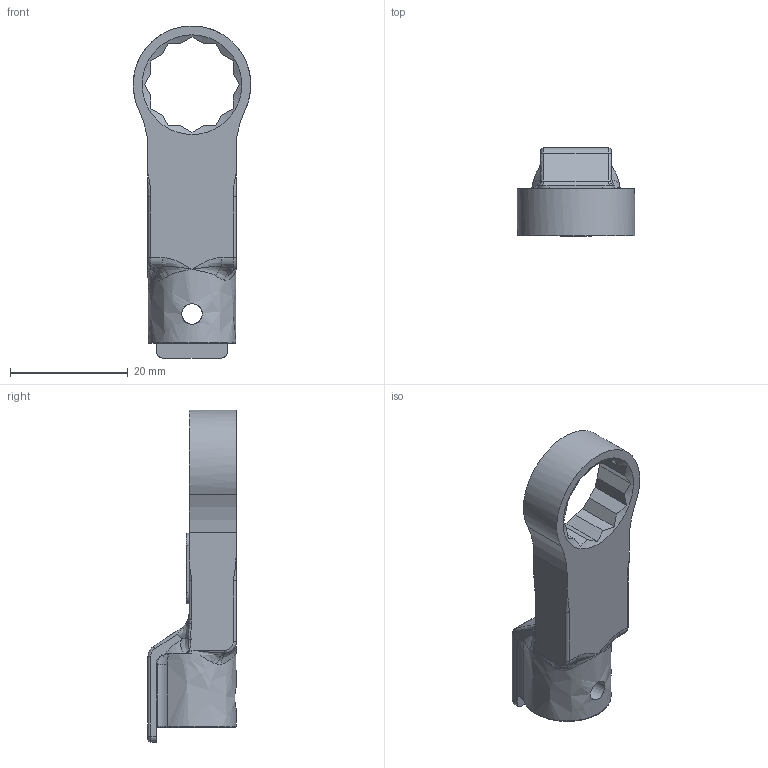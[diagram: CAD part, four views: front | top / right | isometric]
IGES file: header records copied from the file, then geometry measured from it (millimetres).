
Global section: file name: RH10DX14; native system: Autodesk Inventor 2016; preprocessor: unknown; author: Q600; date: 20151110.155431; units: millimetre
Bounding box: 19.99 x 15 x 56.49 mm (x, y, z)
Volume: 5395.4 mm3; surface area: 3449.2 mm2
Topology: 1 solids, 1 shells, 126 faces, 347 edges, 213 vertices
Faces by surface type: bspline 126
